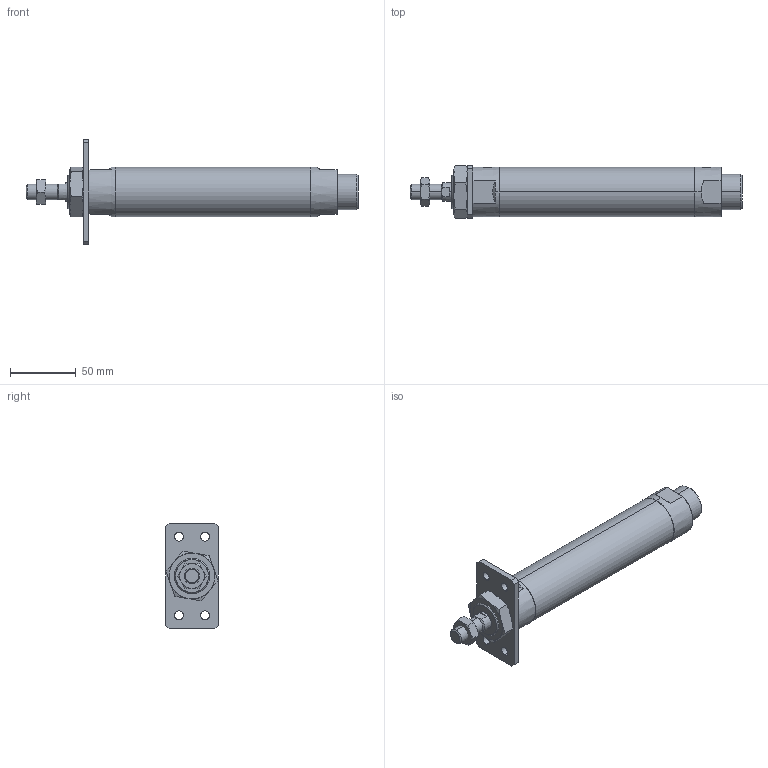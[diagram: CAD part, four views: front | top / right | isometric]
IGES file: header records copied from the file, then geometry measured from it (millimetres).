
Start section: SolidWorks IGES file using analytic representation for surfaces
Global section: file name: C:\Users\Toshiba\Desktop\J#2-32-100-A.IGS; native system: SolidWorks 2014; preprocessor: SolidWorks 2014; author: Toshiba; date: 160308.153609; units: millimetre
Bounding box: 253 x 40 x 80 mm (x, y, z)
Surface area: 40593.8 mm2 (no closed solid volume)
Topology: 0 solids, 0 shells, 114 faces, 2060 edges, 2056 vertices
Faces by surface type: bspline 67, revolution 47
